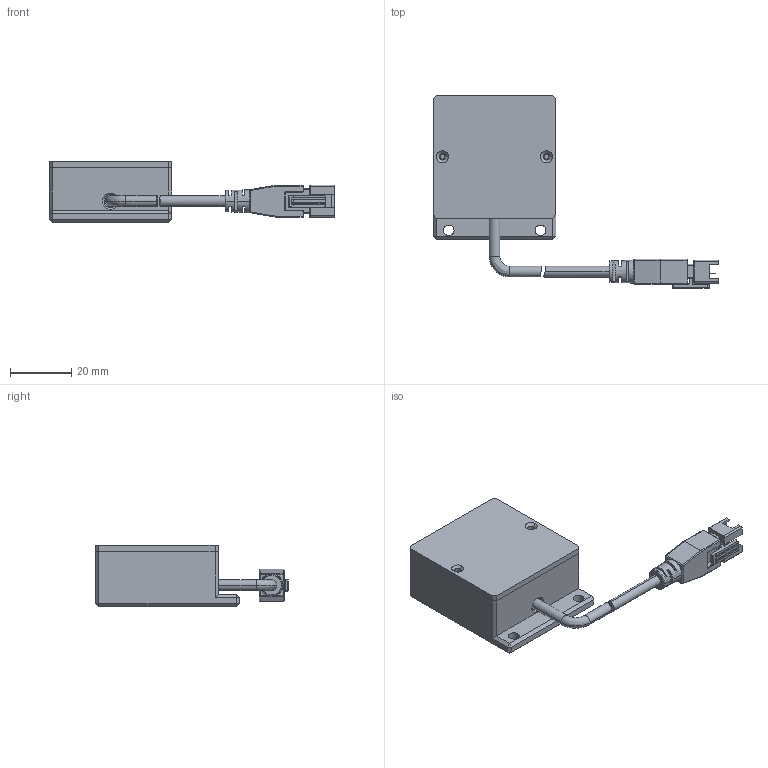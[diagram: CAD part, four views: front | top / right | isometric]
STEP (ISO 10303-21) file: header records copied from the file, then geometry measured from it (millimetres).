
FILE_DESCRIPTION (( 'STEP AP203' ), '1' );
FILE_NAME ('CRT-FLD3030-¼òÒ×3DÍ¼.STEP', '2021-11-24T01:17:17', ( 'Admin' ), ( '' ), 'SwSTEP 2.0', 'SolidWorks 2018', '' );
FILE_SCHEMA (( 'CONFIG_CONTROL_DESIGN' ));
Length unit declared in the file: millimetre
Products named in the file (1): CRT-FLD3030-潠眢3D芞
Bounding box: 93.23 x 62.95 x 20 mm (x, y, z)
Surface area: 9962.3 mm2 (no closed solid volume)
Topology: 0 solids, 4 shells, 254 faces, 695 edges, 434 vertices
Faces by surface type: plane 146, cylinder 72, bspline 23, cone 8, torus 5
Entity records: 8490 total; most frequent: CARTESIAN_POINT 2165, ORIENTED_EDGE 1280, DIRECTION 1279, EDGE_CURVE 683, VECTOR 447, LINE 447, VERTEX_POINT 434, AXIS2_PLACEMENT_3D 416
